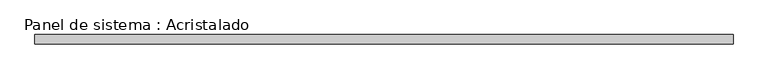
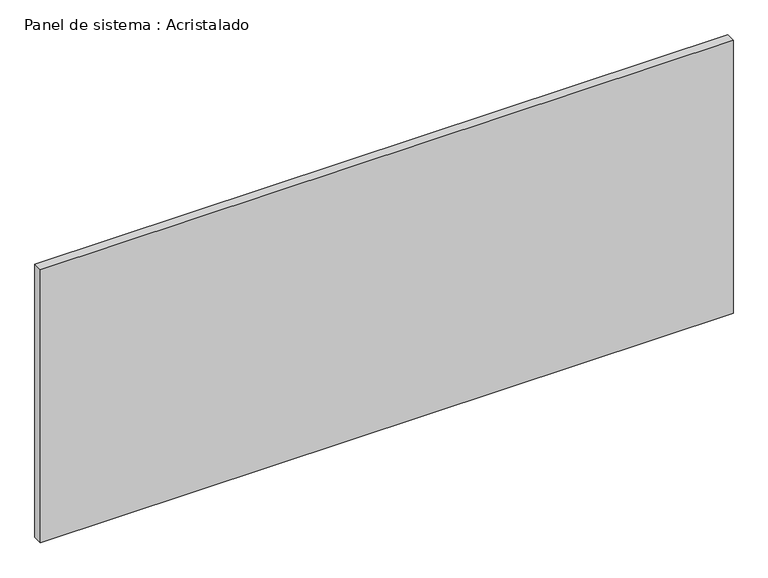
"""IFC4 building model written with IfcOpenShell, lengths in millimetres: plate geometry, Panel de sistema : Acristalado."""

from ifc_helpers import new_model, si_unit, origin, origin_with_axes, place, context, project, spatial, polyline, outline, extrude, source, transform, mapped, element, save


def panel_de_sistema_acristalado_778e6e34(model_context):
    return source(origin(), model_context, "Body", "SweptSolid", [
        extrude(outline(polyline([(750.0, -10.0), (-750.0, -10.0), (-750.0, 10.0), (750.0, 10.0), (750.0, -10.0)])), origin_with_axes(), (0.0, 0.0, 1.0), 625.0),
    ])


if __name__ == "__main__":
    model = new_model("IFC4")
    model_context = context("Model", 3, world=origin())
    ifc_project = project(units=[si_unit("LENGTHUNIT", "METRE", prefix="MILLI")], contexts=[model_context])
    site = spatial("IfcSite", under=ifc_project)
    building = spatial("IfcBuilding", under=site)
    placement = place(None, origin())
    panel_de_sistema_acristalado_shape = panel_de_sistema_acristalado_778e6e34(model_context)
    element("IfcPlate", 1, ObjectType="Panel de sistema : Acristalado", at=placement, inside=building, context=model_context, shape_type="MappedRepresentation", body=[
        mapped(panel_de_sistema_acristalado_shape, transform((0.0, 0.0, 0.0), x_axis=(1.0, 0.0, 0.0), y_axis=(0.0, 1.0, 0.0), z_axis=(0.0, 0.0, 1.0))),
    ])
    save(model, "model.ifc")
